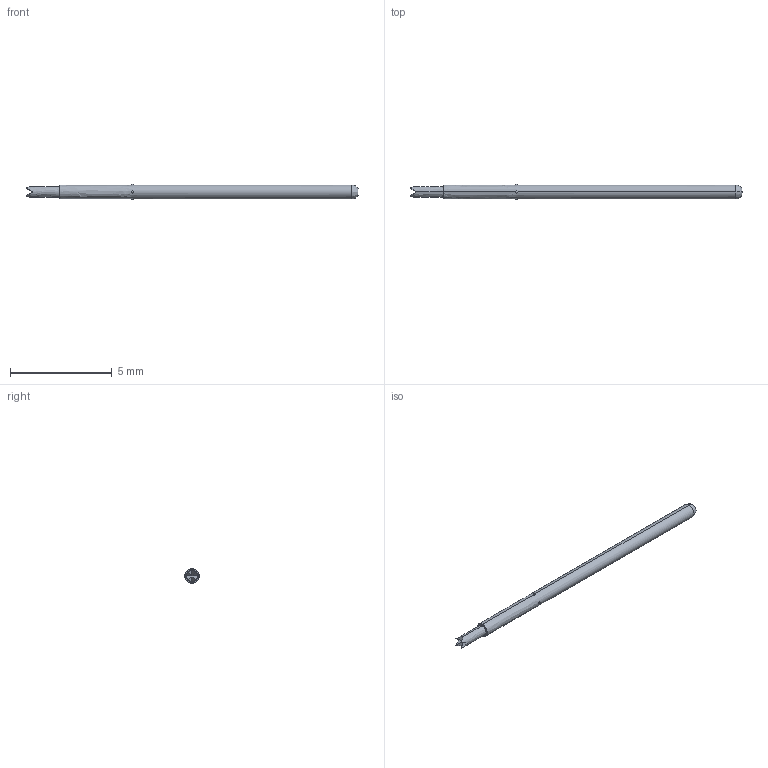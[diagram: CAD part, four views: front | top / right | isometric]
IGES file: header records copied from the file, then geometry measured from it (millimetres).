
Start section: SolidWorks IGES file using analytic representation for surfaces
Global section: file name: O:\PYLON\IGES FILES\P2662A\P2662A-1Q1S REC'D.IGS; native system: SolidWorks 2015; preprocessor: SolidWorks 2015; author: kgolden; date: 171019.090250; units: inch
Bounding box: 16.34 x 0.79 x 0.79 mm (x, y, z)
Surface area: 37.4 mm2 (no closed solid volume)
Topology: 0 solids, 0 shells, 26 faces, 222 edges, 206 vertices
Faces by surface type: revolution 14, bspline 12
